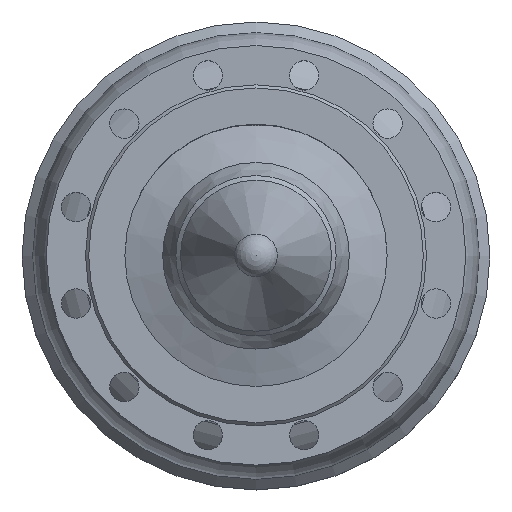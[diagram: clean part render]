
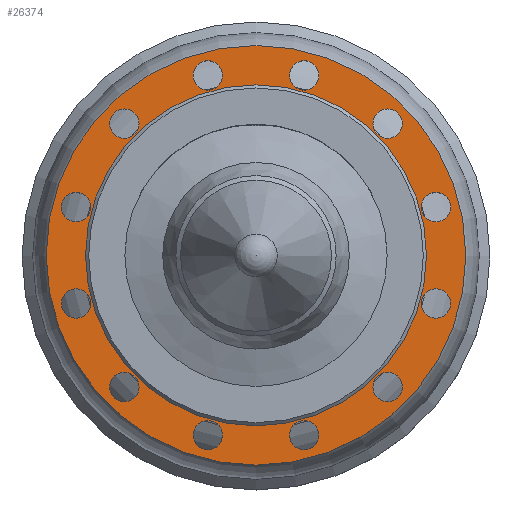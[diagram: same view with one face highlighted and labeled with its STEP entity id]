
A CAD part, top view. The second image highlights one B-rep face of the part: STEP entity #26374.
In plain terms, the highlighted planar face has unit normal (0, 0, 1).
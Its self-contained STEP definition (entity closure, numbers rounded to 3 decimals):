
#3729=PLANE('',#27640);
#4614=ORIENTED_EDGE('',*,*,#9666,.T.);
#4615=ORIENTED_EDGE('',*,*,#9667,.T.);
#4616=ORIENTED_EDGE('',*,*,#9668,.T.);
#4617=ORIENTED_EDGE('',*,*,#9669,.T.);
#4618=ORIENTED_EDGE('',*,*,#9670,.T.);
#4619=ORIENTED_EDGE('',*,*,#9671,.T.);
#4620=ORIENTED_EDGE('',*,*,#9672,.T.);
#4621=ORIENTED_EDGE('',*,*,#9673,.T.);
#4622=ORIENTED_EDGE('',*,*,#9674,.T.);
#4623=ORIENTED_EDGE('',*,*,#9675,.T.);
#4624=ORIENTED_EDGE('',*,*,#9676,.T.);
#4625=ORIENTED_EDGE('',*,*,#9677,.T.);
#4626=ORIENTED_EDGE('',*,*,#9678,.F.);
#4627=ORIENTED_EDGE('',*,*,#9645,.T.);
#9645=EDGE_CURVE('',#12191,#12191,#13978,.T.);
#9666=EDGE_CURVE('',#12212,#12212,#13982,.T.);
#9667=EDGE_CURVE('',#12213,#12213,#13983,.T.);
#9668=EDGE_CURVE('',#12214,#12214,#13984,.T.);
#9669=EDGE_CURVE('',#12215,#12215,#13985,.T.);
#9670=EDGE_CURVE('',#12216,#12216,#13986,.T.);
#9671=EDGE_CURVE('',#12217,#12217,#13987,.T.);
#9672=EDGE_CURVE('',#12218,#12218,#13988,.T.);
#9673=EDGE_CURVE('',#12219,#12219,#13989,.T.);
#9674=EDGE_CURVE('',#12220,#12220,#13990,.T.);
#9675=EDGE_CURVE('',#12221,#12221,#13991,.T.);
#9676=EDGE_CURVE('',#12222,#12222,#13992,.T.);
#9677=EDGE_CURVE('',#12223,#12223,#13993,.T.);
#9678=EDGE_CURVE('',#12224,#12224,#13994,.T.);
#12191=VERTEX_POINT('',#35499);
#12212=VERTEX_POINT('',#35766);
#12213=VERTEX_POINT('',#35768);
#12214=VERTEX_POINT('',#35770);
#12215=VERTEX_POINT('',#35772);
#12216=VERTEX_POINT('',#35774);
#12217=VERTEX_POINT('',#35776);
#12218=VERTEX_POINT('',#35778);
#12219=VERTEX_POINT('',#35780);
#12220=VERTEX_POINT('',#35782);
#12221=VERTEX_POINT('',#35784);
#12222=VERTEX_POINT('',#35786);
#12223=VERTEX_POINT('',#35788);
#12224=VERTEX_POINT('',#35790);
#13978=CIRCLE('',#27625,162.5);
#13982=CIRCLE('',#27641,14.);
#13983=CIRCLE('',#27642,14.);
#13984=CIRCLE('',#27643,14.);
#13985=CIRCLE('',#27644,14.);
#13986=CIRCLE('',#27645,14.);
#13987=CIRCLE('',#27646,14.);
#13988=CIRCLE('',#27647,14.);
#13989=CIRCLE('',#27648,14.);
#13990=CIRCLE('',#27649,14.);
#13991=CIRCLE('',#27650,14.);
#13992=CIRCLE('',#27651,14.);
#13993=CIRCLE('',#27652,14.);
#13994=CIRCLE('',#27653,200.);
#14698=EDGE_LOOP('',(#4614));
#14699=EDGE_LOOP('',(#4615));
#14700=EDGE_LOOP('',(#4616));
#14701=EDGE_LOOP('',(#4617));
#14702=EDGE_LOOP('',(#4618));
#14703=EDGE_LOOP('',(#4619));
#14704=EDGE_LOOP('',(#4620));
#14705=EDGE_LOOP('',(#4621));
#14706=EDGE_LOOP('',(#4622));
#14707=EDGE_LOOP('',(#4623));
#14708=EDGE_LOOP('',(#4624));
#14709=EDGE_LOOP('',(#4625));
#14710=EDGE_LOOP('',(#4626));
#14711=EDGE_LOOP('',(#4627));
#16372=FACE_BOUND('',#14698,.T.);
#16373=FACE_BOUND('',#14699,.T.);
#16374=FACE_BOUND('',#14700,.T.);
#16375=FACE_BOUND('',#14701,.T.);
#16376=FACE_BOUND('',#14702,.T.);
#16377=FACE_BOUND('',#14703,.T.);
#16378=FACE_BOUND('',#14704,.T.);
#16379=FACE_BOUND('',#14705,.T.);
#16380=FACE_BOUND('',#14706,.T.);
#16381=FACE_BOUND('',#14707,.T.);
#16382=FACE_BOUND('',#14708,.T.);
#16383=FACE_BOUND('',#14709,.T.);
#16384=FACE_BOUND('',#14710,.T.);
#16385=FACE_BOUND('',#14711,.T.);
#26374=ADVANCED_FACE('',(#16372,#16373,#16374,#16375,#16376,#16377,#16378,
#16379,#16380,#16381,#16382,#16383,#16384,#16385),#3729,.F.);
#27625=AXIS2_PLACEMENT_3D('',#35498,#29598,#29599);
#27640=AXIS2_PLACEMENT_3D('',#35764,#29633,#29634);
#27641=AXIS2_PLACEMENT_3D('',#35765,#29635,#29636);
#27642=AXIS2_PLACEMENT_3D('',#35767,#29637,#29638);
#27643=AXIS2_PLACEMENT_3D('',#35769,#29639,#29640);
#27644=AXIS2_PLACEMENT_3D('',#35771,#29641,#29642);
#27645=AXIS2_PLACEMENT_3D('',#35773,#29643,#29644);
#27646=AXIS2_PLACEMENT_3D('',#35775,#29645,#29646);
#27647=AXIS2_PLACEMENT_3D('',#35777,#29647,#29648);
#27648=AXIS2_PLACEMENT_3D('',#35779,#29649,#29650);
#27649=AXIS2_PLACEMENT_3D('',#35781,#29651,#29652);
#27650=AXIS2_PLACEMENT_3D('',#35783,#29653,#29654);
#27651=AXIS2_PLACEMENT_3D('',#35785,#29655,#29656);
#27652=AXIS2_PLACEMENT_3D('',#35787,#29657,#29658);
#27653=AXIS2_PLACEMENT_3D('',#35789,#29659,#29660);
#29598=DIRECTION('',(0.,0.,-1.));
#29599=DIRECTION('',(1.,0.,0.));
#29633=DIRECTION('',(0.,0.,-1.));
#29634=DIRECTION('',(1.,0.,0.));
#29635=DIRECTION('',(0.,0.,-1.));
#29636=DIRECTION('',(0.866,-0.5,0.));
#29637=DIRECTION('',(0.,0.,-1.));
#29638=DIRECTION('',(0.5,-0.866,0.));
#29639=DIRECTION('',(0.,0.,-1.));
#29640=DIRECTION('',(0.,-1.,0.));
#29641=DIRECTION('',(0.,0.,-1.));
#29642=DIRECTION('',(-0.5,-0.866,0.));
#29643=DIRECTION('',(0.,0.,-1.));
#29644=DIRECTION('',(-0.866,-0.5,0.));
#29645=DIRECTION('',(0.,0.,-1.));
#29646=DIRECTION('',(-1.,0.,0.));
#29647=DIRECTION('',(0.,0.,-1.));
#29648=DIRECTION('',(-0.866,0.5,0.));
#29649=DIRECTION('',(0.,0.,-1.));
#29650=DIRECTION('',(-0.5,0.866,0.));
#29651=DIRECTION('',(0.,0.,-1.));
#29652=DIRECTION('',(0.,1.,0.));
#29653=DIRECTION('',(0.,0.,-1.));
#29654=DIRECTION('',(0.5,0.866,0.));
#29655=DIRECTION('',(0.,0.,-1.));
#29656=DIRECTION('',(0.866,0.5,0.));
#29657=DIRECTION('',(0.,0.,-1.));
#29658=DIRECTION('',(1.,0.,0.));
#29659=DIRECTION('',(0.,0.,-1.));
#29660=DIRECTION('',(1.,0.,0.));
#35498=CARTESIAN_POINT('',(0.,0.,597.));
#35499=CARTESIAN_POINT('',(162.5,0.,597.));
#35764=CARTESIAN_POINT('',(162.5,0.,597.));
#35765=CARTESIAN_POINT('',(45.94,171.452,597.));
#35766=CARTESIAN_POINT('',(58.065,164.452,597.));
#35767=CARTESIAN_POINT('',(125.511,125.511,597.));
#35768=CARTESIAN_POINT('',(132.511,113.387,597.));
#35769=CARTESIAN_POINT('',(171.452,45.94,597.));
#35770=CARTESIAN_POINT('',(171.452,31.94,597.));
#35771=CARTESIAN_POINT('',(171.452,-45.94,597.));
#35772=CARTESIAN_POINT('',(164.452,-58.065,597.));
#35773=CARTESIAN_POINT('',(125.511,-125.511,597.));
#35774=CARTESIAN_POINT('',(113.387,-132.511,597.));
#35775=CARTESIAN_POINT('',(45.94,-171.452,597.));
#35776=CARTESIAN_POINT('',(31.94,-171.452,597.));
#35777=CARTESIAN_POINT('',(-45.94,-171.452,597.));
#35778=CARTESIAN_POINT('',(-58.065,-164.452,597.));
#35779=CARTESIAN_POINT('',(-125.511,-125.511,597.));
#35780=CARTESIAN_POINT('',(-132.511,-113.387,597.));
#35781=CARTESIAN_POINT('',(-171.452,-45.94,597.));
#35782=CARTESIAN_POINT('',(-171.452,-31.94,597.));
#35783=CARTESIAN_POINT('',(-171.452,45.94,597.));
#35784=CARTESIAN_POINT('',(-164.452,58.065,597.));
#35785=CARTESIAN_POINT('',(-125.511,125.511,597.));
#35786=CARTESIAN_POINT('',(-113.387,132.511,597.));
#35787=CARTESIAN_POINT('',(-45.94,171.452,597.));
#35788=CARTESIAN_POINT('',(-31.94,171.452,597.));
#35789=CARTESIAN_POINT('',(0.,0.,597.));
#35790=CARTESIAN_POINT('',(200.,0.,597.));
